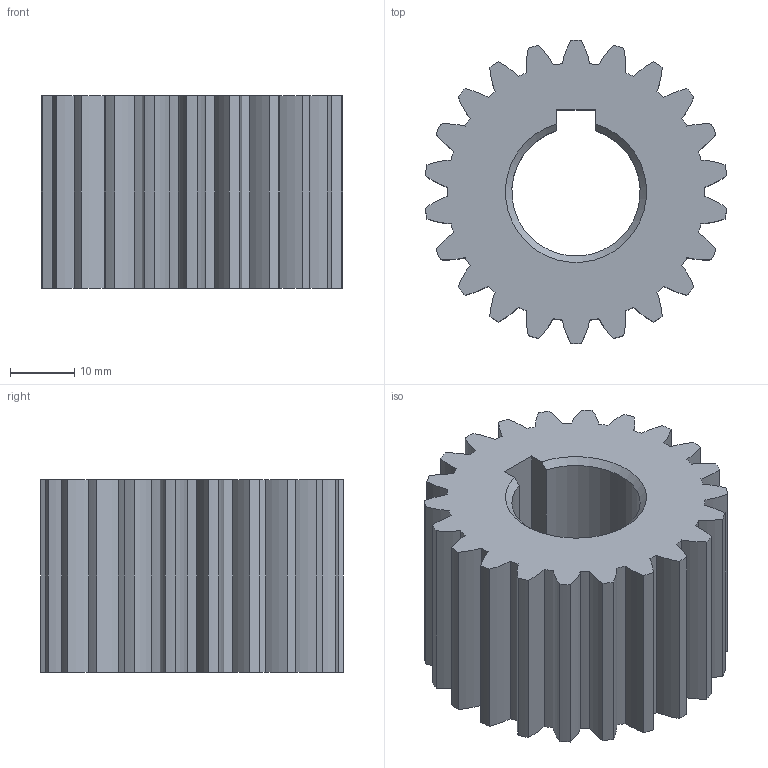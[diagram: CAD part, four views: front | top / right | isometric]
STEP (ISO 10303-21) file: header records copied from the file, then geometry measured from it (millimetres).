
FILE_DESCRIPTION(/* description */ (''),/* implementation_level */ '2;1');
FILE_NAME(/* name */ '',/* time_stamp */ '2026-09-29T15:29:13+09:00',/* author */ ('jhkim'),/* organization */ (''),/* preprocessor_version */ 'ST-DEVELOPER v20.1',/* originating_system */ 'Autodesk Inventor 2027',/* authorisation */ '');
FILE_SCHEMA (('AUTOMOTIVE_DESIGN { 1 0 10303 214 3 1 1 }'));
Length unit declared in the file: millimetre
Products named in the file (1): 스퍼 기어
Bounding box: 46.93 x 47.2 x 30 mm (x, y, z)
Volume: 35418.1 mm3; surface area: 11526.3 mm2
Topology: 1 solids, 1 shells, 96 faces, 282 edges, 188 vertices
Faces by surface type: cylinder 89, plane 5, cone 2
Entity records: 3349 total; most frequent: DIRECTION 652, CARTESIAN_POINT 575, ORIENTED_EDGE 564, EDGE_CURVE 282, AXIS2_PLACEMENT_3D 277, VERTEX_POINT 188, CIRCLE 180, LINE 98
